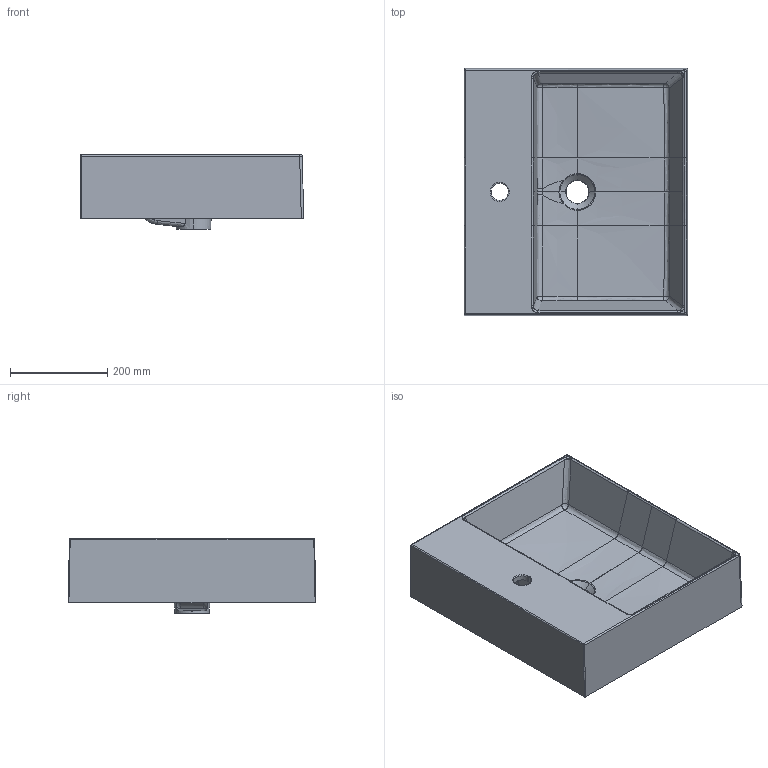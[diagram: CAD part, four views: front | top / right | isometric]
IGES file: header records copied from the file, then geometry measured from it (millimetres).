
Start section: START RECORD GO HERE.
Global section: file name: 3D LAVABO TUBE 51 x 46.igs; native system: DASSAULT SYSTEMES CATIA V5 R19 - www.3ds.com; preprocessor: CATIA Version 5 Release 19 SP 5 ; author: Luca; organization: DESKTOP-V7SON24; date: 20211201.131444; units: millimetre
Bounding box: 460.31 x 510.14 x 153.47 mm (x, y, z)
Surface area: 1030890 mm2 (no closed solid volume)
Topology: 0 solids, 0 shells, 481 faces, 2331 edges, 2312 vertices
Faces by surface type: bspline 370, plane 56, revolution 55
